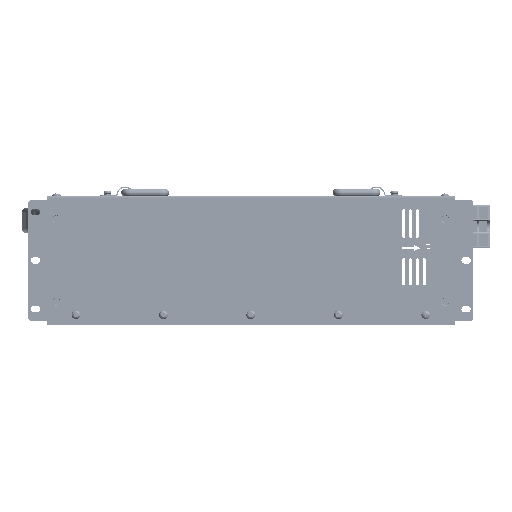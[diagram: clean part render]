
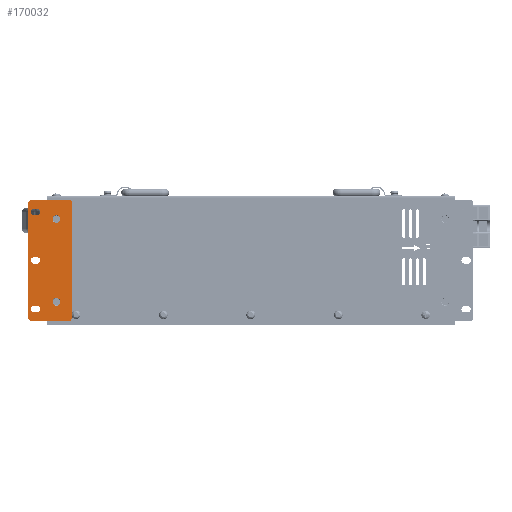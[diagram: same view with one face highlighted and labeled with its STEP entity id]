
A CAD part, top view. The second image highlights one B-rep face of the part: STEP entity #170032.
In plain terms, the highlighted planar face has unit normal (0, 0, 1).
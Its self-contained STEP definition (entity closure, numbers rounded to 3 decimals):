
#6754=FACE_BOUND('',#32115,.T.);
#6755=FACE_BOUND('',#32116,.T.);
#6756=FACE_BOUND('',#32117,.T.);
#6757=FACE_BOUND('',#32118,.T.);
#6758=FACE_BOUND('',#32119,.T.);
#11714=CIRCLE('',#183148,4.);
#11715=CIRCLE('',#183149,4.);
#11716=CIRCLE('',#183150,4.);
#11717=CIRCLE('',#183151,4.);
#11718=CIRCLE('',#183152,4.);
#11719=CIRCLE('',#183153,4.);
#11720=CIRCLE('',#183154,3.3);
#11721=CIRCLE('',#183155,3.3);
#11722=CIRCLE('',#183156,3.3);
#11723=CIRCLE('',#183157,3.3);
#11724=CIRCLE('',#183158,3.3);
#11725=CIRCLE('',#183159,3.3);
#22036=FACE_OUTER_BOUND('',#32114,.T.);
#32114=EDGE_LOOP('',(#143322,#143323,#143324,#143325,#143326,#143327,#143328,
#143329));
#32115=EDGE_LOOP('',(#143330));
#32116=EDGE_LOOP('',(#143331));
#32117=EDGE_LOOP('',(#143332,#143333,#143334,#143335));
#32118=EDGE_LOOP('',(#143336,#143337,#143338,#143339));
#32119=EDGE_LOOP('',(#143340,#143341,#143342,#143343));
#46003=LINE('',#313910,#60560);
#46004=LINE('',#313914,#60561);
#46005=LINE('',#313918,#60562);
#46006=LINE('',#313922,#60563);
#46007=LINE('',#313930,#60564);
#46008=LINE('',#313934,#60565);
#46009=LINE('',#313938,#60566);
#46010=LINE('',#313942,#60567);
#46011=LINE('',#313946,#60568);
#46012=LINE('',#313950,#60569);
#60560=VECTOR('',#221445,10.);
#60561=VECTOR('',#221448,10.);
#60562=VECTOR('',#221451,10.);
#60563=VECTOR('',#221454,10.);
#60564=VECTOR('',#221461,10.);
#60565=VECTOR('',#221464,10.);
#60566=VECTOR('',#221467,10.);
#60567=VECTOR('',#221470,10.);
#60568=VECTOR('',#221473,10.);
#60569=VECTOR('',#221476,10.);
#76200=VERTEX_POINT('',#313908);
#76201=VERTEX_POINT('',#313909);
#76202=VERTEX_POINT('',#313911);
#76203=VERTEX_POINT('',#313913);
#76204=VERTEX_POINT('',#313915);
#76205=VERTEX_POINT('',#313917);
#76206=VERTEX_POINT('',#313919);
#76207=VERTEX_POINT('',#313921);
#76208=VERTEX_POINT('',#313924);
#76209=VERTEX_POINT('',#313926);
#76210=VERTEX_POINT('',#313928);
#76211=VERTEX_POINT('',#313929);
#76212=VERTEX_POINT('',#313931);
#76213=VERTEX_POINT('',#313933);
#76214=VERTEX_POINT('',#313936);
#76215=VERTEX_POINT('',#313937);
#76216=VERTEX_POINT('',#313939);
#76217=VERTEX_POINT('',#313941);
#76218=VERTEX_POINT('',#313944);
#76219=VERTEX_POINT('',#313945);
#76220=VERTEX_POINT('',#313947);
#76221=VERTEX_POINT('',#313949);
#98836=EDGE_CURVE('',#76200,#76201,#46003,.T.);
#98837=EDGE_CURVE('',#76201,#76202,#11714,.T.);
#98838=EDGE_CURVE('',#76202,#76203,#46004,.T.);
#98839=EDGE_CURVE('',#76203,#76204,#11715,.T.);
#98840=EDGE_CURVE('',#76204,#76205,#46005,.T.);
#98841=EDGE_CURVE('',#76205,#76206,#11716,.T.);
#98842=EDGE_CURVE('',#76206,#76207,#46006,.T.);
#98843=EDGE_CURVE('',#76207,#76200,#11717,.T.);
#98844=EDGE_CURVE('',#76208,#76208,#11718,.T.);
#98845=EDGE_CURVE('',#76209,#76209,#11719,.T.);
#98846=EDGE_CURVE('',#76210,#76211,#46007,.T.);
#98847=EDGE_CURVE('',#76211,#76212,#11720,.T.);
#98848=EDGE_CURVE('',#76212,#76213,#46008,.T.);
#98849=EDGE_CURVE('',#76213,#76210,#11721,.T.);
#98850=EDGE_CURVE('',#76214,#76215,#46009,.T.);
#98851=EDGE_CURVE('',#76215,#76216,#11722,.T.);
#98852=EDGE_CURVE('',#76216,#76217,#46010,.T.);
#98853=EDGE_CURVE('',#76217,#76214,#11723,.T.);
#98854=EDGE_CURVE('',#76218,#76219,#46011,.T.);
#98855=EDGE_CURVE('',#76219,#76220,#11724,.T.);
#98856=EDGE_CURVE('',#76220,#76221,#46012,.T.);
#98857=EDGE_CURVE('',#76221,#76218,#11725,.T.);
#143322=ORIENTED_EDGE('',*,*,#98836,.T.);
#143323=ORIENTED_EDGE('',*,*,#98837,.T.);
#143324=ORIENTED_EDGE('',*,*,#98838,.T.);
#143325=ORIENTED_EDGE('',*,*,#98839,.T.);
#143326=ORIENTED_EDGE('',*,*,#98840,.T.);
#143327=ORIENTED_EDGE('',*,*,#98841,.T.);
#143328=ORIENTED_EDGE('',*,*,#98842,.T.);
#143329=ORIENTED_EDGE('',*,*,#98843,.T.);
#143330=ORIENTED_EDGE('',*,*,#98844,.T.);
#143331=ORIENTED_EDGE('',*,*,#98845,.T.);
#143332=ORIENTED_EDGE('',*,*,#98846,.T.);
#143333=ORIENTED_EDGE('',*,*,#98847,.T.);
#143334=ORIENTED_EDGE('',*,*,#98848,.T.);
#143335=ORIENTED_EDGE('',*,*,#98849,.T.);
#143336=ORIENTED_EDGE('',*,*,#98850,.T.);
#143337=ORIENTED_EDGE('',*,*,#98851,.T.);
#143338=ORIENTED_EDGE('',*,*,#98852,.T.);
#143339=ORIENTED_EDGE('',*,*,#98853,.T.);
#143340=ORIENTED_EDGE('',*,*,#98854,.T.);
#143341=ORIENTED_EDGE('',*,*,#98855,.T.);
#143342=ORIENTED_EDGE('',*,*,#98856,.T.);
#143343=ORIENTED_EDGE('',*,*,#98857,.T.);
#152467=PLANE('',#183147);
#170032=ADVANCED_FACE('',(#22036,#6754,#6755,#6756,#6757,#6758),#152467,
 .T.);
#183147=AXIS2_PLACEMENT_3D('',#313907,#221443,#221444);
#183148=AXIS2_PLACEMENT_3D('',#313912,#221446,#221447);
#183149=AXIS2_PLACEMENT_3D('',#313916,#221449,#221450);
#183150=AXIS2_PLACEMENT_3D('',#313920,#221452,#221453);
#183151=AXIS2_PLACEMENT_3D('',#313923,#221455,#221456);
#183152=AXIS2_PLACEMENT_3D('',#313925,#221457,#221458);
#183153=AXIS2_PLACEMENT_3D('',#313927,#221459,#221460);
#183154=AXIS2_PLACEMENT_3D('',#313932,#221462,#221463);
#183155=AXIS2_PLACEMENT_3D('',#313935,#221465,#221466);
#183156=AXIS2_PLACEMENT_3D('',#313940,#221468,#221469);
#183157=AXIS2_PLACEMENT_3D('',#313943,#221471,#221472);
#183158=AXIS2_PLACEMENT_3D('',#313948,#221474,#221475);
#183159=AXIS2_PLACEMENT_3D('',#313951,#221477,#221478);
#221443=DIRECTION('center_axis',(0.,0.,
1.));
#221444=DIRECTION('ref_axis',(0.,1.,0.));
#221445=DIRECTION('',(1.,0.,0.));
#221446=DIRECTION('center_axis',(0.,0.,
1.));
#221447=DIRECTION('ref_axis',(0.,-1.,0.));
#221448=DIRECTION('',(0.,1.,0.));
#221449=DIRECTION('center_axis',(0.,0.,
1.));
#221450=DIRECTION('ref_axis',(1.,0.,0.));
#221451=DIRECTION('',(-1.,0.,0.));
#221452=DIRECTION('center_axis',(0.,0.,
1.));
#221453=DIRECTION('ref_axis',(0.,1.,0.));
#221454=DIRECTION('',(0.,-1.,0.));
#221455=DIRECTION('center_axis',(0.,0.,
1.));
#221456=DIRECTION('ref_axis',(-1.,0.,0.));
#221457=DIRECTION('center_axis',(0.,0.,
-1.));
#221458=DIRECTION('ref_axis',(1.,0.,0.));
#221459=DIRECTION('center_axis',(0.,0.,
-1.));
#221460=DIRECTION('ref_axis',(1.,0.,0.));
#221461=DIRECTION('',(-1.,0.,0.));
#221462=DIRECTION('center_axis',(0.,0.,
-1.));
#221463=DIRECTION('ref_axis',(0.,-1.,0.));
#221464=DIRECTION('',(1.,0.,0.));
#221465=DIRECTION('center_axis',(0.,0.,
-1.));
#221466=DIRECTION('ref_axis',(0.,1.,0.));
#221467=DIRECTION('',(-1.,0.,0.));
#221468=DIRECTION('center_axis',(0.,0.,
-1.));
#221469=DIRECTION('ref_axis',(0.,-1.,0.));
#221470=DIRECTION('',(1.,0.,0.));
#221471=DIRECTION('center_axis',(0.,0.,
-1.));
#221472=DIRECTION('ref_axis',(0.,1.,0.));
#221473=DIRECTION('',(-1.,0.,0.));
#221474=DIRECTION('center_axis',(0.,0.,
-1.));
#221475=DIRECTION('ref_axis',(0.,-1.,0.));
#221476=DIRECTION('',(1.,0.,0.));
#221477=DIRECTION('center_axis',(0.,0.,
-1.));
#221478=DIRECTION('ref_axis',(0.,1.,0.));
#313907=CARTESIAN_POINT('Origin',(-417.713,65.825,2.098));
#313908=CARTESIAN_POINT('',(-436.213,3.325,2.098));
#313909=CARTESIAN_POINT('',(-399.213,3.325,2.098));
#313910=CARTESIAN_POINT('',(-436.213,3.325,2.098));
#313911=CARTESIAN_POINT('',(-395.213,7.325,2.098));
#313912=CARTESIAN_POINT('Origin',(-399.213,7.325,2.098));
#313913=CARTESIAN_POINT('',(-395.213,124.325,2.098));
#313914=CARTESIAN_POINT('',(-395.213,7.325,2.098));
#313915=CARTESIAN_POINT('',(-399.213,128.325,2.098));
#313916=CARTESIAN_POINT('Origin',(-399.213,124.325,2.098));
#313917=CARTESIAN_POINT('',(-436.213,128.325,2.098));
#313918=CARTESIAN_POINT('',(-399.213,128.325,2.098));
#313919=CARTESIAN_POINT('',(-440.213,124.325,2.098));
#313920=CARTESIAN_POINT('Origin',(-436.213,124.325,2.098));
#313921=CARTESIAN_POINT('',(-440.213,7.325,2.098));
#313922=CARTESIAN_POINT('',(-440.213,124.325,2.098));
#313923=CARTESIAN_POINT('Origin',(-436.213,7.325,2.098));
#313924=CARTESIAN_POINT('',(-415.213,23.325,2.098));
#313925=CARTESIAN_POINT('Origin',(-411.213,23.325,2.098));
#313926=CARTESIAN_POINT('',(-415.213,108.325,2.098));
#313927=CARTESIAN_POINT('Origin',(-411.213,108.325,2.098));
#313928=CARTESIAN_POINT('',(-431.213,112.525,2.098));
#313929=CARTESIAN_POINT('',(-434.213,112.525,2.098));
#313930=CARTESIAN_POINT('',(-431.213,112.525,2.098));
#313931=CARTESIAN_POINT('',(-434.213,119.125,2.098));
#313932=CARTESIAN_POINT('Origin',(-434.213,115.825,2.098));
#313933=CARTESIAN_POINT('',(-431.213,119.125,2.098));
#313934=CARTESIAN_POINT('',(-434.213,119.125,2.098));
#313935=CARTESIAN_POINT('Origin',(-431.213,115.825,2.098));
#313936=CARTESIAN_POINT('',(-431.213,62.525,2.098));
#313937=CARTESIAN_POINT('',(-434.213,62.525,2.098));
#313938=CARTESIAN_POINT('',(-431.213,62.525,2.098));
#313939=CARTESIAN_POINT('',(-434.213,69.125,2.098));
#313940=CARTESIAN_POINT('Origin',(-434.213,65.825,2.098));
#313941=CARTESIAN_POINT('',(-431.213,69.125,2.098));
#313942=CARTESIAN_POINT('',(-434.213,69.125,2.098));
#313943=CARTESIAN_POINT('Origin',(-431.213,65.825,2.098));
#313944=CARTESIAN_POINT('',(-431.213,12.525,2.098));
#313945=CARTESIAN_POINT('',(-434.213,12.525,2.098));
#313946=CARTESIAN_POINT('',(-431.213,12.525,2.098));
#313947=CARTESIAN_POINT('',(-434.213,19.125,2.098));
#313948=CARTESIAN_POINT('Origin',(-434.213,15.825,2.098));
#313949=CARTESIAN_POINT('',(-431.213,19.125,2.098));
#313950=CARTESIAN_POINT('',(-434.213,19.125,2.098));
#313951=CARTESIAN_POINT('Origin',(-431.213,15.825,2.098));
